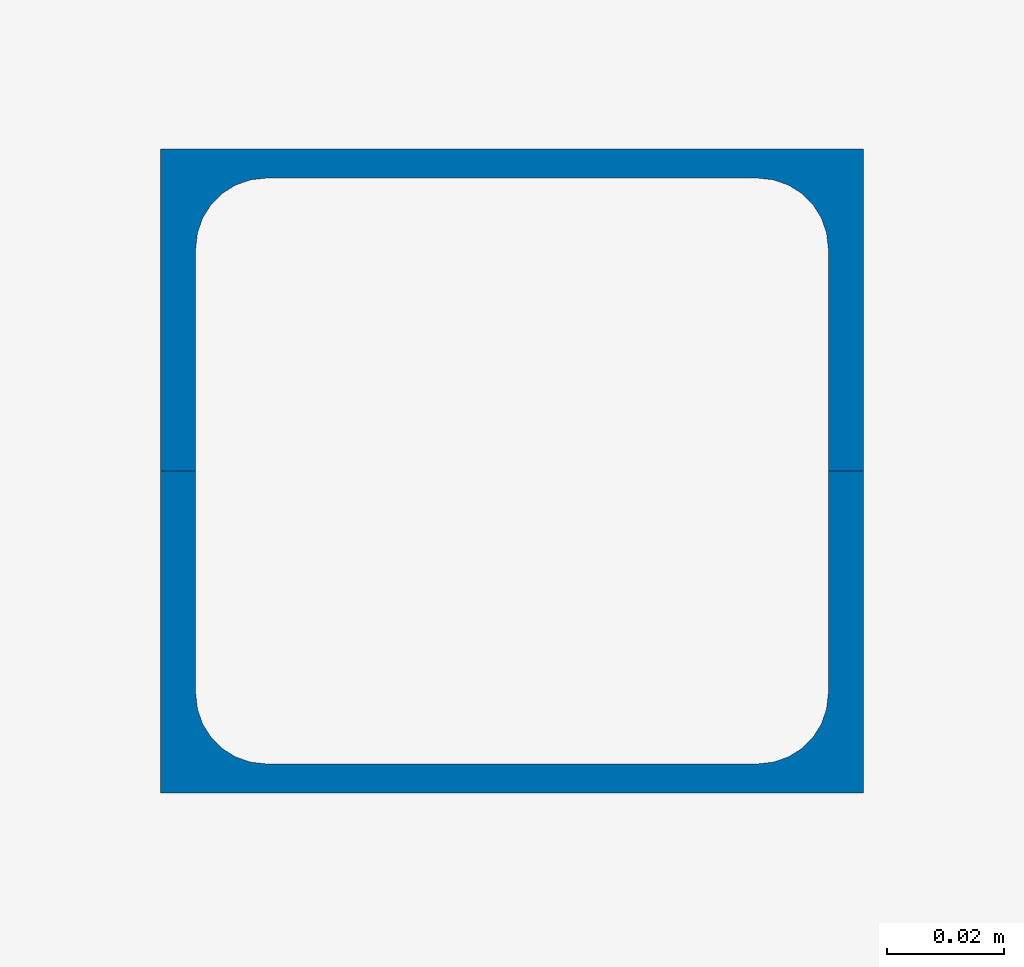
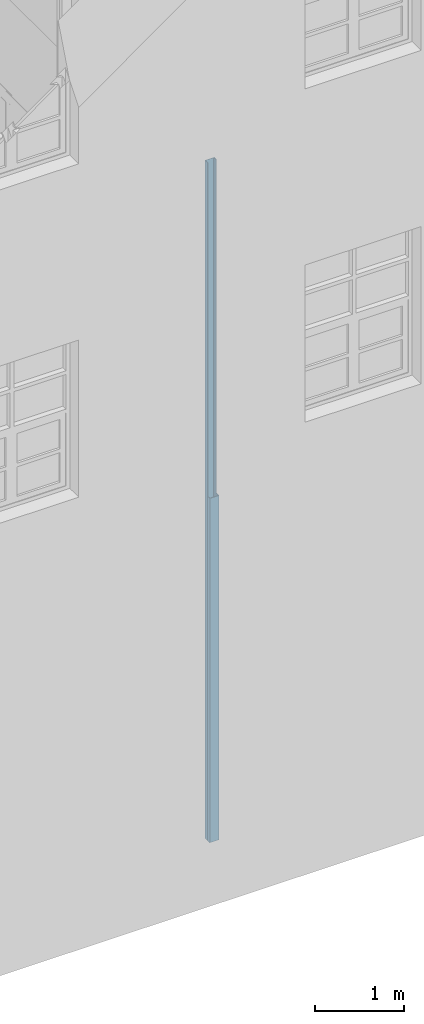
# One storey, part 8 of 75: 2 columns.
"""IFC2X3 building model written with IfcOpenShell, lengths in metres."""

from ifc_helpers import new_model, entity, si_unit, converted_unit, derived_unit, direction, frame, frame_2d, origin, place, context, subcontext, project, spatial, polyline, circle_curve, parameter, trimmed, segment, composite_curve, outline, extrude, source, transform, mapped, material, type_object, type_shapes, element, save


model = new_model("IFC2X3")

# Units and contexts
model_context = context("Model", 3, precision=1e-05, world=origin(), true_north=direction((6.12303176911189e-17, 1.0)))
body_context = subcontext(model_context, "Body", "Model", "MODEL_VIEW")
ifc_project = project(units=[si_unit("LENGTHUNIT", "METRE"), si_unit("AREAUNIT", "SQUARE_METRE"), si_unit("VOLUMEUNIT", "CUBIC_METRE"), converted_unit("PLANEANGLEUNIT", "DEGREE", entity("IfcRatioMeasure", 0.0174532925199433), si_unit("PLANEANGLEUNIT", "RADIAN"), dimensions=[0, 0, 0, 0, 0, 0, 0]), si_unit("MASSUNIT", "GRAM", prefix="KILO"), derived_unit("MASSDENSITYUNIT", [(si_unit("MASSUNIT", "GRAM", prefix="KILO"), 1), (si_unit("LENGTHUNIT", "METRE"), -3)]), derived_unit("MOMENTOFINERTIAUNIT", [(si_unit("LENGTHUNIT", "METRE"), 4)]), si_unit("TIMEUNIT", "SECOND"), si_unit("FREQUENCYUNIT", "HERTZ"), si_unit("THERMODYNAMICTEMPERATUREUNIT", "DEGREE_CELSIUS"), derived_unit("THERMALTRANSMITTANCEUNIT", [(si_unit("MASSUNIT", "GRAM", prefix="KILO"), 1), (si_unit("THERMODYNAMICTEMPERATUREUNIT", "KELVIN"), -1), (si_unit("TIMEUNIT", "SECOND"), -3)]), derived_unit("VOLUMETRICFLOWRATEUNIT", [(si_unit("LENGTHUNIT", "METRE"), 3), (si_unit("TIMEUNIT", "SECOND"), -1)]), si_unit("ELECTRICCURRENTUNIT", "AMPERE"), si_unit("ELECTRICVOLTAGEUNIT", "VOLT"), si_unit("POWERUNIT", "WATT"), si_unit("FORCEUNIT", "NEWTON", prefix="KILO"), si_unit("ILLUMINANCEUNIT", "LUX"), si_unit("LUMINOUSFLUXUNIT", "LUMEN"), si_unit("LUMINOUSINTENSITYUNIT", "CANDELA"), derived_unit("USERDEFINED", [(si_unit("MASSUNIT", "GRAM", prefix="KILO"), -1), (si_unit("LENGTHUNIT", "METRE"), -2), (si_unit("TIMEUNIT", "SECOND"), 3), (si_unit("LUMINOUSFLUXUNIT", "LUMEN"), 1)]), derived_unit("LINEARVELOCITYUNIT", [(si_unit("LENGTHUNIT", "METRE"), 1), (si_unit("TIMEUNIT", "SECOND"), -1)]), si_unit("PRESSUREUNIT", "PASCAL"), derived_unit("USERDEFINED", [(si_unit("LENGTHUNIT", "METRE"), -2), (si_unit("MASSUNIT", "GRAM", prefix="KILO"), 1), (si_unit("TIMEUNIT", "SECOND"), -2)]), derived_unit("LINEARFORCEUNIT", [(si_unit("MASSUNIT", "GRAM", prefix="KILO"), 1), (si_unit("LENGTHUNIT", "METRE"), 1), (si_unit("TIMEUNIT", "SECOND"), -2), (si_unit("LENGTHUNIT", "METRE"), -1)]), derived_unit("PLANARFORCEUNIT", [(si_unit("MASSUNIT", "GRAM", prefix="KILO"), 1), (si_unit("LENGTHUNIT", "METRE"), 1), (si_unit("TIMEUNIT", "SECOND"), -2), (si_unit("LENGTHUNIT", "METRE"), -2)])], contexts=[model_context])

# Site, building, storey
site_placement = place(None, origin())
site = spatial("IfcSite", under=ifc_project, at=site_placement, Name="Superficie", CompositionType="ELEMENT")
building_placement = place(site_placement, origin())
building = spatial("IfcBuilding", under=site, at=building_placement, Name="Telegestiones", CompositionType="ELEMENT")
storey_placement = place(building_placement, origin())
storey = spatial("IfcBuildingStorey", under=building, at=storey_placement, Name="Nivel 0_NPT", CompositionType="ELEMENT", Elevation=0.0)

# Columns
ifc_material = material(Name="Metal - Acero - 345 MPa")
column_type_1 = type_object("IfcColumnType", Name="UPE - Canales de ala paralela - Pilar:UPE 120", PredefinedType="COLUMN", material=ifc_material)
shared_shape_1 = source(origin(), body_context, "Body", "SweptSolid", [
    extrude(outline(composite_curve([segment(polyline([(-0.0599999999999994, -0.0264), (0.0600000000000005, -0.0264)]), True, "CONTINUOUS"), segment(polyline([(0.0600000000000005, -0.0264), (0.0600000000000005, 0.0286)]), True, "CONTINUOUS"), segment(polyline([(0.0600000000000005, 0.0286), (0.0539999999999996, 0.0286)]), True, "CONTINUOUS"), segment(polyline([(0.0539999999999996, 0.0286), (0.0539999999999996, -0.00939999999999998)]), True, "CONTINUOUS"), segment(trimmed(circle_curve(frame_2d((0.0419999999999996, -0.0094), x_axis=(1.0, 0.0)), 0.012), [parameter(270.0)], [parameter(0.0)], True, "PARAMETER"), False, "CONTINUOUS"), segment(polyline([(0.0419999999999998, -0.0214), (-0.0420000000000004, -0.0214)]), True, "CONTINUOUS"), segment(trimmed(circle_curve(frame_2d((-0.0420000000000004, -0.00940000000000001), x_axis=(0.0, -1.0)), 0.012), [parameter(270.0)], [parameter(0.0)], True, "PARAMETER"), False, "CONTINUOUS"), segment(polyline([(-0.0540000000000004, -0.0094), (-0.0540000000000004, 0.0286)]), True, "CONTINUOUS"), segment(polyline([(-0.0540000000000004, 0.0286), (-0.0599999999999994, 0.0286)]), True, "CONTINUOUS"), segment(polyline([(-0.0599999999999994, 0.0286), (-0.0599999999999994, -0.0264)]), True, "CONTINUOUS")], self_intersect=False)), frame((0.00660000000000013, 0.0, 0.0), z_axis=(0.0, 0.0, 1.0), x_axis=(0.0, -1.0, 0.0)), (0.0, 0.0, 1.0), 9.27),
])
type_shapes(column_type_1, [shared_shape_1])
column_1_placement = place(storey_placement, frame((11.2679777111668, -5.48919277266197, 0.0), z_axis=(0.0, 0.0, 1.0), x_axis=(0.0, -1.0, 0.0)))
element("IfcColumn", 1, at=column_1_placement, inside=storey, type_object=column_type_1, Name="UPE - Canales de ala paralela - Pilar:UPE 120", ObjectType="UPE - Canales de ala paralela - Pilar:UPE 120", context=body_context, shape_type="MappedRepresentation", body=[
    mapped(shared_shape_1, transform((0.0, 0.0, 0.0), scale=1.0)),
])
column_type_2 = type_object("IfcColumnType", Name="UPE - Canales de ala paralela - Pilar:UPE 120", PredefinedType="COLUMN", material=ifc_material)
shared_shape_2 = source(origin(), body_context, "Body", "SweptSolid", [
    extrude(outline(composite_curve([segment(polyline([(-0.0600000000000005, -0.0264), (0.0599999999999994, -0.0264)]), True, "CONTINUOUS"), segment(polyline([(0.0599999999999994, -0.0264), (0.0599999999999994, 0.0286)]), True, "CONTINUOUS"), segment(polyline([(0.0599999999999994, 0.0286), (0.0540000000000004, 0.0286)]), True, "CONTINUOUS"), segment(polyline([(0.0540000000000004, 0.0286), (0.0540000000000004, -0.00939999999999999)]), True, "CONTINUOUS"), segment(trimmed(circle_curve(frame_2d((0.0420000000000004, -0.00939999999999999), x_axis=(1.0, 0.0)), 0.012), [parameter(270.0)], [parameter(0.0)], True, "PARAMETER"), False, "CONTINUOUS"), segment(polyline([(0.0420000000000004, -0.0214), (-0.0419999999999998, -0.0214)]), True, "CONTINUOUS"), segment(trimmed(circle_curve(frame_2d((-0.0419999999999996, -0.00939999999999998), x_axis=(0.0, -1.0)), 0.012), [parameter(270.0)], [parameter(0.0)], True, "PARAMETER"), False, "CONTINUOUS"), segment(polyline([(-0.0539999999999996, -0.00939999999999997), (-0.0539999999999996, 0.0286)]), True, "CONTINUOUS"), segment(polyline([(-0.0539999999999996, 0.0286), (-0.0600000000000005, 0.0286)]), True, "CONTINUOUS"), segment(polyline([(-0.0600000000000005, 0.0286), (-0.0600000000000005, -0.0264)]), True, "CONTINUOUS")], self_intersect=False)), frame((0.00660000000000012, 0.0, 0.0), z_axis=(0.0, 0.0, 1.0), x_axis=(0.0, -1.0, 0.0)), (0.0, 0.0, 1.0), 4.71),
])
type_shapes(column_type_2, [shared_shape_2])
column_2_placement = place(storey_placement, frame((11.2679777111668, -5.55959277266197, 0.0), z_axis=(0.0, 0.0, 1.0), x_axis=(0.0, 1.0, 0.0)))
element("IfcColumn", 2, at=column_2_placement, inside=storey, type_object=column_type_2, Name="UPE - Canales de ala paralela - Pilar:UPE 120", ObjectType="UPE - Canales de ala paralela - Pilar:UPE 120", context=body_context, shape_type="MappedRepresentation", body=[
    mapped(shared_shape_2, transform((0.0, 0.0, 0.0), scale=1.0)),
])

save(model, "model.ifc")
